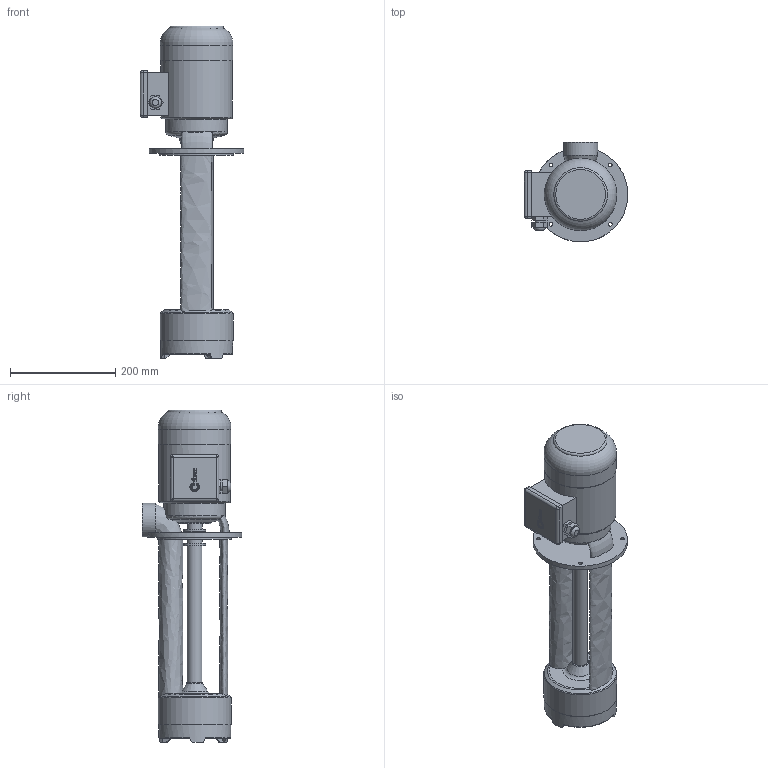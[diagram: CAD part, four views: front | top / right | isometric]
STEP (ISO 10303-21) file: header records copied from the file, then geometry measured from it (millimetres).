
FILE_DESCRIPTION(/* description */ ('Unknown'),/* implementation_level */ '2;1');
FILE_NAME(/* name */ 'EP 152-390',/* time_stamp */ '2023-03-28T15:12:43+03:00',/* author */ ('Unknown'),/* organization */ ('Unknown'),/* preprocessor_version */ 'ST-DEVELOPER v16.7',/* originating_system */ 'DEX',/* authorisation */ $);
FILE_SCHEMA (('AUTOMOTIVE_DESIGN {1 0 10303 214 3 1 1}'));
Length unit declared in the file: millimetre
Products named in the file (1): EP 152-390
Bounding box: 197.5 x 190 x 632.36 mm (x, y, z)
Volume: 5988063.2 mm3; surface area: 379786.1 mm2
Topology: 1 solids, 1 shells, 264 faces, 670 edges, 431 vertices
Faces by surface type: plane 91, bspline 81, cylinder 56, torus 26, cone 10
Full cylindrical faces by diameter (mm): 7 x4, 17 x1, 21.5 x1, 28 x1, 29 x3, 30 x1, 42 x2, 44 x1, 48 x1, 62 x1, 94 x1, 116.969 x1, 136.473 x1, 137 x1, 137.994 x1, 139 x1, 140 x1, 180 x1
Entity records: 11309 total; most frequent: CARTESIAN_POINT 5675, ORIENTED_EDGE 1204, DIRECTION 957, EDGE_CURVE 602, VERTEX_POINT 415, AXIS2_PLACEMENT_3D 364, EDGE_LOOP 355, FACE_BOUND 355
